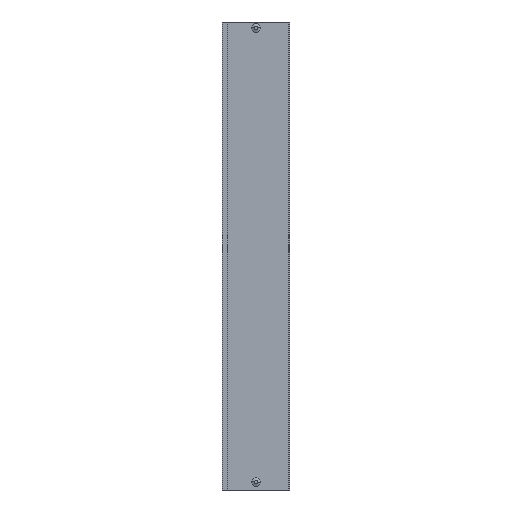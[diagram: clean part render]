
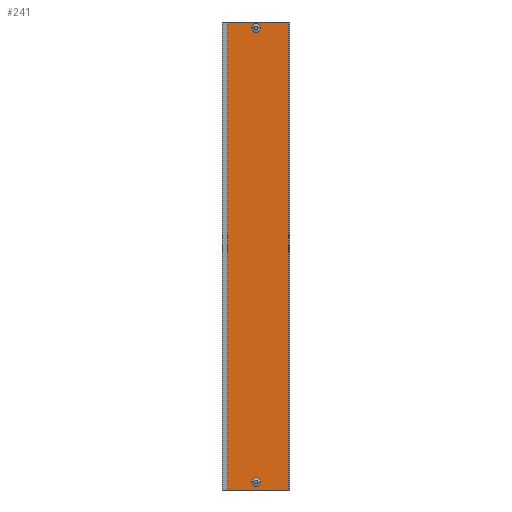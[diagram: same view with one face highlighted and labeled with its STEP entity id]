
A CAD part, front view. The second image highlights one B-rep face of the part: STEP entity #241.
In plain terms, the highlighted planar face has unit normal (0, -1, 0).
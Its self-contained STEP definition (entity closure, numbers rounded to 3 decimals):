
#16 = AXIS2_PLACEMENT_3D ( 'NONE', #509, #184, #1140 ) ;
#28 = PLANE ( 'NONE',  #107 ) ;
#75 = VERTEX_POINT ( 'NONE', #1260 ) ;
#78 = VERTEX_POINT ( 'NONE', #618 ) ;
#107 = AXIS2_PLACEMENT_3D ( 'NONE', #663, #1277, #1139 ) ;
#110 = VERTEX_POINT ( 'NONE', #314 ) ;
#123 = VECTOR ( 'NONE', #1420, 1000. ) ;
#125 = DIRECTION ( 'NONE',  ( 0., 1., 0. ) ) ;
#126 = CIRCLE ( 'NONE', #1245, 3.5 ) ;
#132 = ORIENTED_EDGE ( 'NONE', *, *, #767, .T. ) ;
#135 = AXIS2_PLACEMENT_3D ( 'NONE', #447, #1084, #1686 ) ;
#141 = CARTESIAN_POINT ( 'NONE',  ( 41., 11., 667.5 ) ) ;
#147 = LINE ( 'NONE', #2023, #626 ) ;
#181 = FACE_OUTER_BOUND ( 'NONE', #1582, .T. ) ;
#184 = DIRECTION ( 'NONE',  ( 0., 1., 0. ) ) ;
#186 = LINE ( 'NONE', #1138, #1339 ) ;
#196 = VERTEX_POINT ( 'NONE', #507 ) ;
#217 = CARTESIAN_POINT ( 'NONE',  ( 88.5, 11., 679. ) ) ;
#241 = ADVANCED_FACE ( 'NONE', ( #522, #1594, #181 ), #28, .F. ) ;
#258 = CARTESIAN_POINT ( 'NONE',  ( 37.5, 11., 670.5 ) ) ;
#266 = ORIENTED_EDGE ( 'NONE', *, *, #392, .F. ) ;
#310 = DIRECTION ( 'NONE',  ( -1., 0., 0. ) ) ;
#314 = CARTESIAN_POINT ( 'NONE',  ( -4.8, 11., 0. ) ) ;
#330 = CARTESIAN_POINT ( 'NONE',  ( 88.5, 11., 679. ) ) ;
#338 = DIRECTION ( 'NONE',  ( 1., 0., 0. ) ) ;
#350 = CIRCLE ( 'NONE', #16, 3.5 ) ;
#351 = CARTESIAN_POINT ( 'NONE',  ( 44.5, 11., 670.5 ) ) ;
#391 = DIRECTION ( 'NONE',  ( 0., 0., 1. ) ) ;
#392 = EDGE_CURVE ( 'NONE', #1234, #196, #1191, .T. ) ;
#395 = ORIENTED_EDGE ( 'NONE', *, *, #1855, .T. ) ;
#397 = ORIENTED_EDGE ( 'NONE', *, *, #1526, .F. ) ;
#400 = DIRECTION ( 'NONE',  ( -1., 0., 0. ) ) ;
#402 = DIRECTION ( 'NONE',  ( 0., 1., 0. ) ) ;
#423 = VERTEX_POINT ( 'NONE', #665 ) ;
#428 = DIRECTION ( 'NONE',  ( 0., 0., -1. ) ) ;
#430 = VERTEX_POINT ( 'NONE', #827 ) ;
#434 = DIRECTION ( 'NONE',  ( 0., 1., 0. ) ) ;
#441 = CIRCLE ( 'NONE', #135, 3.5 ) ;
#442 = EDGE_CURVE ( 'NONE', #1585, #1837, #350, .T. ) ;
#445 = EDGE_LOOP ( 'NONE', ( #563, #987, #1040, #1358, #1944 ) ) ;
#447 = CARTESIAN_POINT ( 'NONE',  ( 41., 11., 670.5 ) ) ;
#484 = EDGE_CURVE ( 'NONE', #110, #1620, #1293, .T. ) ;
#485 = LINE ( 'NONE', #330, #123 ) ;
#507 = CARTESIAN_POINT ( 'NONE',  ( 86.8, 11., 0. ) ) ;
#509 = CARTESIAN_POINT ( 'NONE',  ( 41., 11., 8.5 ) ) ;
#513 = ORIENTED_EDGE ( 'NONE', *, *, #1478, .F. ) ;
#521 = LINE ( 'NONE', #1603, #1849 ) ;
#522 = FACE_BOUND ( 'NONE', #445, .T. ) ;
#524 = LINE ( 'NONE', #559, #1169 ) ;
#538 = VERTEX_POINT ( 'NONE', #351 ) ;
#555 = CARTESIAN_POINT ( 'NONE',  ( -8., 11., 0. ) ) ;
#559 = CARTESIAN_POINT ( 'NONE',  ( -6.5, 11., 679. ) ) ;
#563 = ORIENTED_EDGE ( 'NONE', *, *, #1268, .T. ) ;
#583 = CARTESIAN_POINT ( 'NONE',  ( -6.5, 11., 679. ) ) ;
#593 = VECTOR ( 'NONE', #1197, 1000. ) ;
#616 = CARTESIAN_POINT ( 'NONE',  ( 41., 11., 11.5 ) ) ;
#618 = CARTESIAN_POINT ( 'NONE',  ( 37.5, 11., 667.5 ) ) ;
#624 = VECTOR ( 'NONE', #1502, 1000. ) ;
#626 = VECTOR ( 'NONE', #946, 1000. ) ;
#643 = CARTESIAN_POINT ( 'NONE',  ( 44.5, 11., 8.5 ) ) ;
#663 = CARTESIAN_POINT ( 'NONE',  ( -8., 11., 679. ) ) ;
#665 = CARTESIAN_POINT ( 'NONE',  ( -4.8, 11., 679. ) ) ;
#698 = EDGE_CURVE ( 'NONE', #1303, #704, #941, .T. ) ;
#704 = VERTEX_POINT ( 'NONE', #791 ) ;
#705 = CARTESIAN_POINT ( 'NONE',  ( 44.5, 11., 8.5 ) ) ;
#756 = VECTOR ( 'NONE', #1011, 1000. ) ;
#767 = EDGE_CURVE ( 'NONE', #1717, #78, #1276, .T. ) ;
#791 = CARTESIAN_POINT ( 'NONE',  ( 44.5, 11., 11.5 ) ) ;
#795 = EDGE_CURVE ( 'NONE', #430, #538, #441, .T. ) ;
#827 = CARTESIAN_POINT ( 'NONE',  ( 37.5, 11., 670.5 ) ) ;
#837 = DIRECTION ( 'NONE',  ( -1., 0., 0. ) ) ;
#850 = ORIENTED_EDGE ( 'NONE', *, *, #1229, .F. ) ;
#862 = CARTESIAN_POINT ( 'NONE',  ( 86.8, 11., 679. ) ) ;
#897 = LINE ( 'NONE', #258, #624 ) ;
#918 = EDGE_LOOP ( 'NONE', ( #1675, #1915, #395, #132, #1218 ) ) ;
#924 = VERTEX_POINT ( 'NONE', #217 ) ;
#941 = CIRCLE ( 'NONE', #1436, 3.5 ) ;
#946 = DIRECTION ( 'NONE',  ( 1., 0., 0. ) ) ;
#953 = ORIENTED_EDGE ( 'NONE', *, *, #1862, .F. ) ;
#968 = CARTESIAN_POINT ( 'NONE',  ( 88.5, 11., 0. ) ) ;
#987 = ORIENTED_EDGE ( 'NONE', *, *, #1840, .F. ) ;
#997 = VERTEX_POINT ( 'NONE', #862 ) ;
#998 = CARTESIAN_POINT ( 'NONE',  ( -6.5, 11., 0. ) ) ;
#999 = EDGE_CURVE ( 'NONE', #1585, #704, #1470, .T. ) ;
#1011 = DIRECTION ( 'NONE',  ( 1., 0., 0. ) ) ;
#1040 = ORIENTED_EDGE ( 'NONE', *, *, #698, .T. ) ;
#1059 = CIRCLE ( 'NONE', #1586, 3.5 ) ;
#1083 = ORIENTED_EDGE ( 'NONE', *, *, #484, .F. ) ;
#1084 = DIRECTION ( 'NONE',  ( 0., 1., 0. ) ) ;
#1119 = VECTOR ( 'NONE', #1941, 1000. ) ;
#1138 = CARTESIAN_POINT ( 'NONE',  ( 90., 11., 679. ) ) ;
#1139 = DIRECTION ( 'NONE',  ( 0., 0., 1. ) ) ;
#1140 = DIRECTION ( 'NONE',  ( 0., 0., -1. ) ) ;
#1146 = VECTOR ( 'NONE', #837, 1000. ) ;
#1169 = VECTOR ( 'NONE', #391, 1000. ) ;
#1181 = LINE ( 'NONE', #583, #756 ) ;
#1191 = LINE ( 'NONE', #1433, #1146 ) ;
#1193 = CARTESIAN_POINT ( 'NONE',  ( 37.5, 11., 11.5 ) ) ;
#1197 = DIRECTION ( 'NONE',  ( 0., 0., -1. ) ) ;
#1214 = CARTESIAN_POINT ( 'NONE',  ( 41., 11., 5. ) ) ;
#1218 = ORIENTED_EDGE ( 'NONE', *, *, #1374, .T. ) ;
#1229 = EDGE_CURVE ( 'NONE', #924, #1234, #485, .T. ) ;
#1234 = VERTEX_POINT ( 'NONE', #968 ) ;
#1245 = AXIS2_PLACEMENT_3D ( 'NONE', #1291, #402, #1595 ) ;
#1247 = DIRECTION ( 'NONE',  ( 0., 1., 0. ) ) ;
#1252 = EDGE_CURVE ( 'NONE', #1620, #1325, #524, .T. ) ;
#1257 = DIRECTION ( 'NONE',  ( 0., 0., -1. ) ) ;
#1260 = CARTESIAN_POINT ( 'NONE',  ( 37.5, 11., 8.5 ) ) ;
#1268 = EDGE_CURVE ( 'NONE', #1837, #75, #126, .T. ) ;
#1275 = EDGE_CURVE ( 'NONE', #538, #1633, #521, .T. ) ;
#1276 = CIRCLE ( 'NONE', #1381, 3.5 ) ;
#1277 = DIRECTION ( 'NONE',  ( 0., 1., 0. ) ) ;
#1291 = CARTESIAN_POINT ( 'NONE',  ( 41., 11., 8.5 ) ) ;
#1293 = LINE ( 'NONE', #555, #1497 ) ;
#1303 = VERTEX_POINT ( 'NONE', #1193 ) ;
#1325 = VERTEX_POINT ( 'NONE', #1793 ) ;
#1339 = VECTOR ( 'NONE', #338, 1000. ) ;
#1358 = ORIENTED_EDGE ( 'NONE', *, *, #999, .F. ) ;
#1362 = ORIENTED_EDGE ( 'NONE', *, *, #1252, .F. ) ;
#1374 = EDGE_CURVE ( 'NONE', #78, #430, #897, .T. ) ;
#1378 = DIRECTION ( 'NONE',  ( 0., 0., -1. ) ) ;
#1381 = AXIS2_PLACEMENT_3D ( 'NONE', #141, #1247, #428 ) ;
#1392 = VECTOR ( 'NONE', #310, 1000. ) ;
#1395 = CARTESIAN_POINT ( 'NONE',  ( 41., 11., 667.5 ) ) ;
#1420 = DIRECTION ( 'NONE',  ( 0., 0., -1. ) ) ;
#1433 = CARTESIAN_POINT ( 'NONE',  ( 86.8, 11., 0. ) ) ;
#1436 = AXIS2_PLACEMENT_3D ( 'NONE', #616, #125, #1553 ) ;
#1470 = LINE ( 'NONE', #705, #1119 ) ;
#1478 = EDGE_CURVE ( 'NONE', #423, #997, #1181, .T. ) ;
#1495 = LINE ( 'NONE', #1966, #593 ) ;
#1497 = VECTOR ( 'NONE', #400, 1000. ) ;
#1502 = DIRECTION ( 'NONE',  ( 0., 0., 1. ) ) ;
#1526 = EDGE_CURVE ( 'NONE', #196, #110, #1700, .T. ) ;
#1553 = DIRECTION ( 'NONE',  ( 0., 0., -1. ) ) ;
#1554 = EDGE_CURVE ( 'NONE', #997, #924, #186, .T. ) ;
#1582 = EDGE_LOOP ( 'NONE', ( #266, #850, #2005, #513, #953, #1362, #1083, #397 ) ) ;
#1585 = VERTEX_POINT ( 'NONE', #643 ) ;
#1586 = AXIS2_PLACEMENT_3D ( 'NONE', #1395, #434, #1378 ) ;
#1588 = CARTESIAN_POINT ( 'NONE',  ( 88.5, 11., 0. ) ) ;
#1594 = FACE_BOUND ( 'NONE', #918, .T. ) ;
#1595 = DIRECTION ( 'NONE',  ( 0., 0., -1. ) ) ;
#1599 = CARTESIAN_POINT ( 'NONE',  ( 44.5, 11., 667.5 ) ) ;
#1603 = CARTESIAN_POINT ( 'NONE',  ( 44.5, 11., 670.5 ) ) ;
#1620 = VERTEX_POINT ( 'NONE', #998 ) ;
#1633 = VERTEX_POINT ( 'NONE', #1599 ) ;
#1675 = ORIENTED_EDGE ( 'NONE', *, *, #795, .T. ) ;
#1686 = DIRECTION ( 'NONE',  ( 0., 0., -1. ) ) ;
#1700 = LINE ( 'NONE', #1588, #1392 ) ;
#1717 = VERTEX_POINT ( 'NONE', #1945 ) ;
#1793 = CARTESIAN_POINT ( 'NONE',  ( -6.5, 11., 679. ) ) ;
#1837 = VERTEX_POINT ( 'NONE', #1214 ) ;
#1840 = EDGE_CURVE ( 'NONE', #1303, #75, #1495, .T. ) ;
#1849 = VECTOR ( 'NONE', #1257, 1000. ) ;
#1855 = EDGE_CURVE ( 'NONE', #1633, #1717, #1059, .T. ) ;
#1862 = EDGE_CURVE ( 'NONE', #1325, #423, #147, .T. ) ;
#1915 = ORIENTED_EDGE ( 'NONE', *, *, #1275, .T. ) ;
#1941 = DIRECTION ( 'NONE',  ( 0., 0., 1. ) ) ;
#1944 = ORIENTED_EDGE ( 'NONE', *, *, #442, .T. ) ;
#1945 = CARTESIAN_POINT ( 'NONE',  ( 41., 11., 664. ) ) ;
#1966 = CARTESIAN_POINT ( 'NONE',  ( 37.5, 11., 8.5 ) ) ;
#2005 = ORIENTED_EDGE ( 'NONE', *, *, #1554, .F. ) ;
#2023 = CARTESIAN_POINT ( 'NONE',  ( -4.8, 11., 679. ) ) ;
